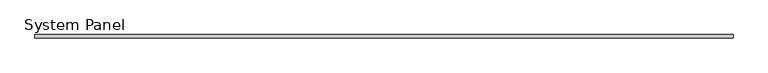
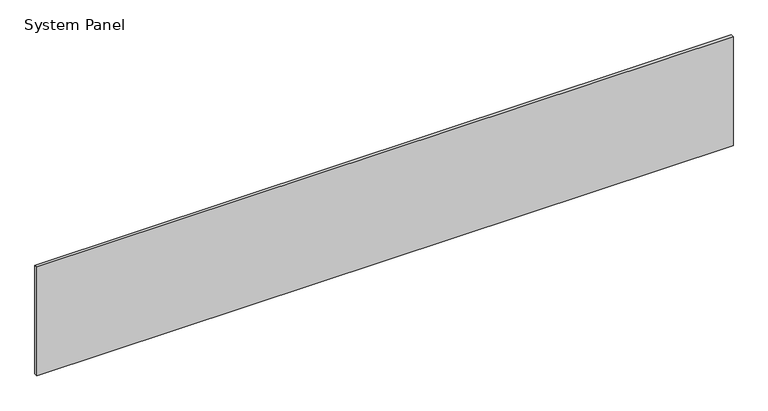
"""IFC4 building model written with IfcOpenShell, lengths in millimetres: plate geometry, システム パネル : System Panel."""

from ifc_helpers import new_model, si_unit, origin, origin_with_axes, place, context, project, spatial, polyline, outline, extrude, source, transform, mapped, element, save


def system_panel_37aab131(model_context):
    return source(origin(), model_context, "Body", "SweptSolid", [
        extrude(outline(polyline([(2725.0, -12.5), (-2725.0, -12.5), (-2725.0, 12.5), (2725.0, 12.5), (2725.0, -12.5)])), origin_with_axes(), (0.0, 0.0, 1.0), 900.0),
    ])


if __name__ == "__main__":
    model = new_model("IFC4")
    model_context = context("Model", 3, world=origin())
    ifc_project = project(units=[si_unit("LENGTHUNIT", "METRE", prefix="MILLI")], contexts=[model_context])
    site = spatial("IfcSite", under=ifc_project)
    building = spatial("IfcBuilding", under=site)
    placement = place(None, origin())
    system_panel_shape = system_panel_37aab131(model_context)
    element("IfcPlate", 1, ObjectType="システム パネル : System Panel", at=placement, inside=building, context=model_context, shape_type="MappedRepresentation", body=[
        mapped(system_panel_shape, transform((0.0, 0.0, 0.0), x_axis=(1.0, 0.0, 0.0), y_axis=(0.0, 1.0, 0.0), z_axis=(0.0, 0.0, 1.0))),
    ])
    save(model, "model.ifc")
